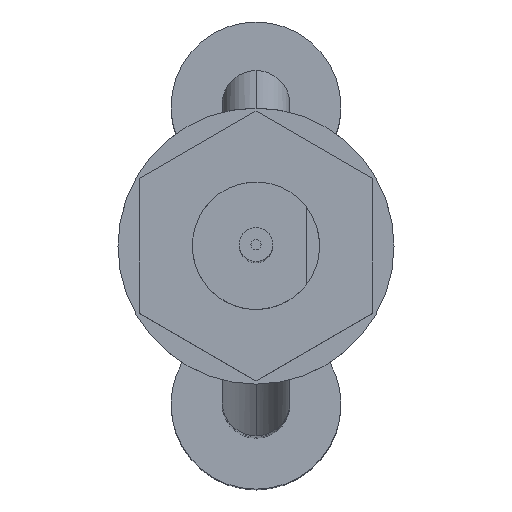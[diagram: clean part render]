
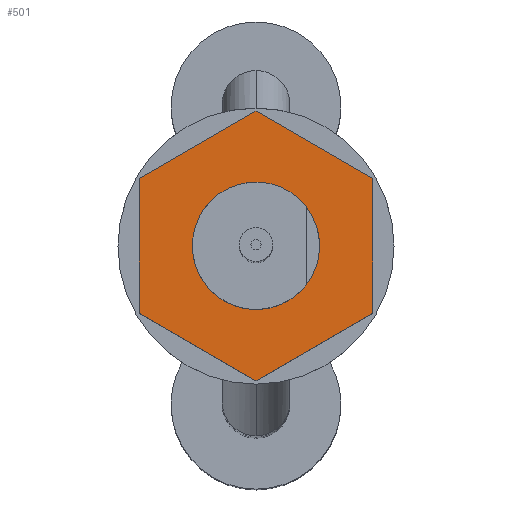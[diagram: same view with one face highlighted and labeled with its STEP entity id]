
A CAD part, top view. The second image highlights one B-rep face of the part: STEP entity #501.
In plain terms, the highlighted planar face has unit normal (0, 0, 1) as drawn and (-1, 0, 0) by its records, which use the part's own axes.
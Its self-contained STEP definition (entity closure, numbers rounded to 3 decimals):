
#501 = ADVANCED_FACE ( 'NONE', ( #1766, #1765 ), #1772, .F. ) ;
#502 = EDGE_LOOP ( 'NONE', ( #503, #507, #510, #564, #567, #570 ) ) ;
#503 = ORIENTED_EDGE ( 'NONE', *, *, #504, .T. ) ;
#504 = EDGE_CURVE ( 'NONE', #505, #506, #1760, .T. ) ;
#505 = VERTEX_POINT ( 'NONE', #1756 ) ;
#506 = VERTEX_POINT ( 'NONE', #1755 ) ;
#507 = ORIENTED_EDGE ( 'NONE', *, *, #508, .T. ) ;
#508 = EDGE_CURVE ( 'NONE', #506, #509, #1754, .T. ) ;
#509 = VERTEX_POINT ( 'NONE', #1750 ) ;
#510 = ORIENTED_EDGE ( 'NONE', *, *, #511, .T. ) ;
#511 = EDGE_CURVE ( 'NONE', #509, #512, #1749, .T. ) ;
#512 = VERTEX_POINT ( 'NONE', #1745 ) ;
#522 = EDGE_CURVE ( 'NONE', #523, #524, #1808, .T. ) ;
#523 = VERTEX_POINT ( 'NONE', #1800 ) ;
#524 = VERTEX_POINT ( 'NONE', #1799 ) ;
#564 = ORIENTED_EDGE ( 'NONE', *, *, #565, .T. ) ;
#565 = EDGE_CURVE ( 'NONE', #512, #566, #1862, .T. ) ;
#566 = VERTEX_POINT ( 'NONE', #1858 ) ;
#567 = ORIENTED_EDGE ( 'NONE', *, *, #568, .T. ) ;
#568 = EDGE_CURVE ( 'NONE', #566, #569, #1857, .T. ) ;
#569 = VERTEX_POINT ( 'NONE', #1853 ) ;
#570 = ORIENTED_EDGE ( 'NONE', *, *, #571, .T. ) ;
#571 = EDGE_CURVE ( 'NONE', #569, #505, #1852, .T. ) ;
#572 = EDGE_LOOP ( 'NONE', ( #573, #574 ) ) ;
#573 = ORIENTED_EDGE ( 'NONE', *, *, #522, .F. ) ;
#574 = ORIENTED_EDGE ( 'NONE', *, *, #575, .F. ) ;
#575 = EDGE_CURVE ( 'NONE', #524, #523, #1848, .T. ) ;
#1745 = CARTESIAN_POINT ( 'NONE',  ( 17.5, -1.588, -2.75 ) ) ;
#1746 = DIRECTION ( 'NONE',  ( 0., -1., 0. ) ) ;
#1747 = VECTOR ( 'NONE', #1746, 1000. ) ;
#1748 = CARTESIAN_POINT ( 'NONE',  ( 17.5, 1.588, -2.75 ) ) ;
#1749 = LINE ( 'NONE', #1748, #1747 ) ;
#1750 = CARTESIAN_POINT ( 'NONE',  ( 17.5, 1.588, -2.75 ) ) ;
#1751 = DIRECTION ( 'NONE',  ( 0., -0.5, -0.866 ) ) ;
#1752 = VECTOR ( 'NONE', #1751, 1000. ) ;
#1753 = CARTESIAN_POINT ( 'NONE',  ( 17.5, 3.175, 0. ) ) ;
#1754 = LINE ( 'NONE', #1753, #1752 ) ;
#1755 = CARTESIAN_POINT ( 'NONE',  ( 17.5, 3.175, 0. ) ) ;
#1756 = CARTESIAN_POINT ( 'NONE',  ( 17.5, 1.588, 2.75 ) ) ;
#1757 = DIRECTION ( 'NONE',  ( 0., 0.5, -0.866 ) ) ;
#1758 = VECTOR ( 'NONE', #1757, 1000. ) ;
#1759 = CARTESIAN_POINT ( 'NONE',  ( 17.5, 1.588, 2.75 ) ) ;
#1760 = LINE ( 'NONE', #1759, #1758 ) ;
#1761 = DIRECTION ( 'NONE',  ( 0., 1., 0. ) ) ;
#1762 = DIRECTION ( 'NONE',  ( 1., 0., 0. ) ) ;
#1763 = CARTESIAN_POINT ( 'NONE',  ( 17.5, 0., 5.5 ) ) ;
#1764 = AXIS2_PLACEMENT_3D ( 'NONE', #1763, #1762, #1761 ) ;
#1765 = FACE_BOUND ( 'NONE', #572, .T. ) ;
#1766 = FACE_OUTER_BOUND ( 'NONE', #502, .T. ) ;
#1772 = PLANE ( 'NONE',  #1764 ) ;
#1799 = CARTESIAN_POINT ( 'NONE',  ( 17.5, -1.5, 0. ) ) ;
#1800 = CARTESIAN_POINT ( 'NONE',  ( 17.5, 1.5, 0. ) ) ;
#1801 = DIRECTION ( 'NONE',  ( 0., -1., 0. ) ) ;
#1802 = DIRECTION ( 'NONE',  ( -1., 0., 0. ) ) ;
#1803 = CARTESIAN_POINT ( 'NONE',  ( 17.5, 0., 0. ) ) ;
#1804 = AXIS2_PLACEMENT_3D ( 'NONE', #1803, #1802, #1801 ) ;
#1808 = CIRCLE ( 'NONE', #1804, 1.5 ) ;
#1844 = DIRECTION ( 'NONE',  ( 0., -1., 0. ) ) ;
#1845 = DIRECTION ( 'NONE',  ( -1., 0., 0. ) ) ;
#1846 = CARTESIAN_POINT ( 'NONE',  ( 17.5, 0., 0. ) ) ;
#1847 = AXIS2_PLACEMENT_3D ( 'NONE', #1846, #1845, #1844 ) ;
#1848 = CIRCLE ( 'NONE', #1847, 1.5 ) ;
#1849 = DIRECTION ( 'NONE',  ( 0., 1., 0. ) ) ;
#1850 = VECTOR ( 'NONE', #1849, 1000. ) ;
#1851 = CARTESIAN_POINT ( 'NONE',  ( 17.5, -1.588, 2.75 ) ) ;
#1852 = LINE ( 'NONE', #1851, #1850 ) ;
#1853 = CARTESIAN_POINT ( 'NONE',  ( 17.5, -1.588, 2.75 ) ) ;
#1854 = DIRECTION ( 'NONE',  ( 0., 0.5, 0.866 ) ) ;
#1855 = VECTOR ( 'NONE', #1854, 1000. ) ;
#1856 = CARTESIAN_POINT ( 'NONE',  ( 17.5, -3.175, 0. ) ) ;
#1857 = LINE ( 'NONE', #1856, #1855 ) ;
#1858 = CARTESIAN_POINT ( 'NONE',  ( 17.5, -3.175, 0. ) ) ;
#1859 = DIRECTION ( 'NONE',  ( 0., -0.5, 0.866 ) ) ;
#1860 = VECTOR ( 'NONE', #1859, 1000. ) ;
#1861 = CARTESIAN_POINT ( 'NONE',  ( 17.5, -1.588, -2.75 ) ) ;
#1862 = LINE ( 'NONE', #1861, #1860 ) ;
